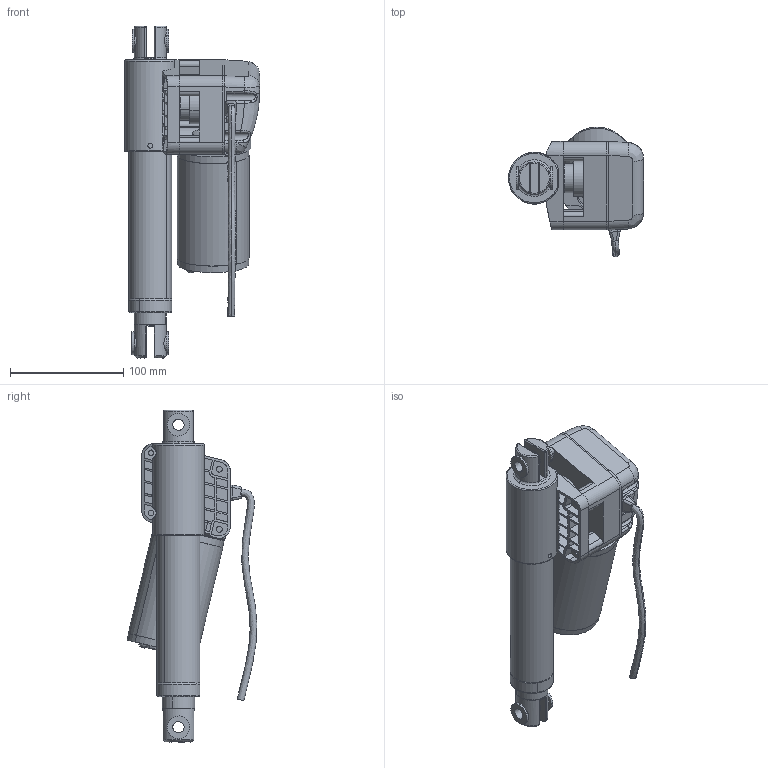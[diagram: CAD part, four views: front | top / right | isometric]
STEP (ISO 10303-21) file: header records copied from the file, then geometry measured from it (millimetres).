
FILE_DESCRIPTION (( 'STEP AP203' ), '1' );
FILE_NAME ('MD53-100.STEP', '2014-06-18T08:57:05', ( '' ), ( '' ), 'SwSTEP 2.0', 'SolidWorks 2012', '' );
FILE_SCHEMA (( 'CONFIG_CONTROL_DESIGN' ));
Length unit declared in the file: millimetre
Products named in the file (3): MD53-100; MD53-tube; MD53-Body
Assembly tree (2 placements, depth 2):
  MD53-100
    MD53-Body
    MD53-tube
Bounding box: 119.2 x 114.53 x 293 mm (x, y, z)
Surface area: 158182 mm2 (no closed solid volume)
Topology: 0 solids, 19 shells, 501 faces, 1618 edges, 1100 vertices
Faces by surface type: cylinder 207, plane 186, bspline 100, cone 8
Entity records: 27636 total; most frequent: CARTESIAN_POINT 14051, ORIENTED_EDGE 2769, DIRECTION 2566, EDGE_CURVE 1606, VERTEX_POINT 1100, AXIS2_PLACEMENT_3D 892, VECTOR 782, LINE 782
